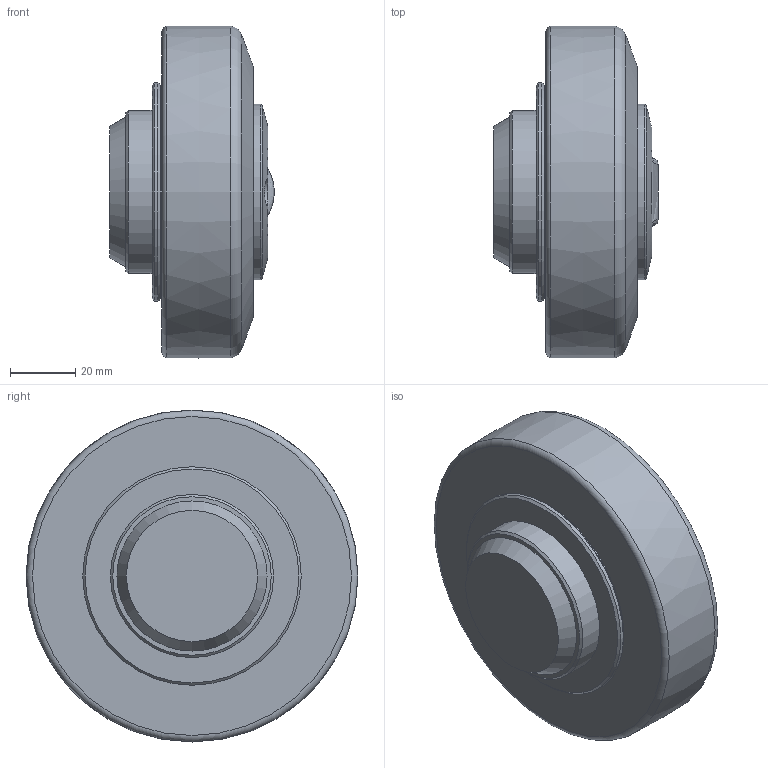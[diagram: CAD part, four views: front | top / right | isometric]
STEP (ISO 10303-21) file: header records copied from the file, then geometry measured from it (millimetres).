
FILE_DESCRIPTION(/* description */ (''),/* implementation_level */ '2;1');
FILE_NAME(/* name */ 'C:\Users\gabriele oddo\Desktop\400-0077.step',/* time_stamp */ '2023-07-26T09:14:49+02:00',/* author */ ('gabriele oddo'),/* organization */ (''),/* preprocessor_version */ 'ST-DEVELOPER v19',/* originating_system */ 'Autodesk Inventor 2023',/* authorisation */ '');
FILE_SCHEMA (('AUTOMOTIVE_DESIGN { 1 0 10303 214 3 1 1 }'));
Length unit declared in the file: millimetre
Products named in the file (1): 400-0077
Bounding box: 50.5 x 101.79 x 101.8 mm (x, y, z)
Volume: 261531.8 mm3; surface area: 26548.4 mm2
Topology: 1 solids, 1 shells, 42 faces, 98 edges, 66 vertices
Faces by surface type: plane 23, cylinder 6, cone 6, bspline 4, torus 3
Full cylindrical faces by diameter (mm): 8.5 x2, 50 x1, 53.8 x1, 65 x1, 67 x1
Entity records: 1583 total; most frequent: CARTESIAN_POINT 526, DIRECTION 202, ORIENTED_EDGE 196, EDGE_CURVE 98, AXIS2_PLACEMENT_3D 76, VERTEX_POINT 66, EDGE_LOOP 50, LINE 50
